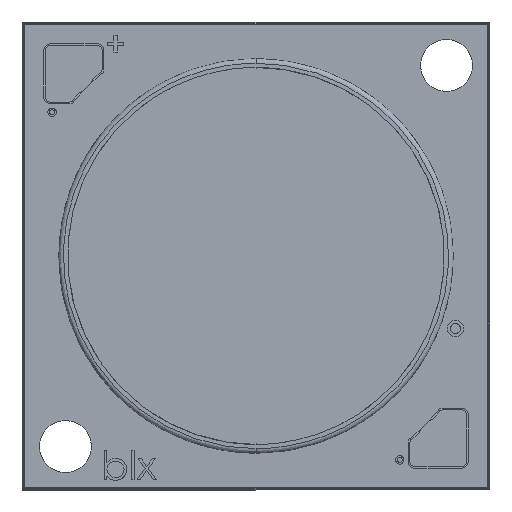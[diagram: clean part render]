
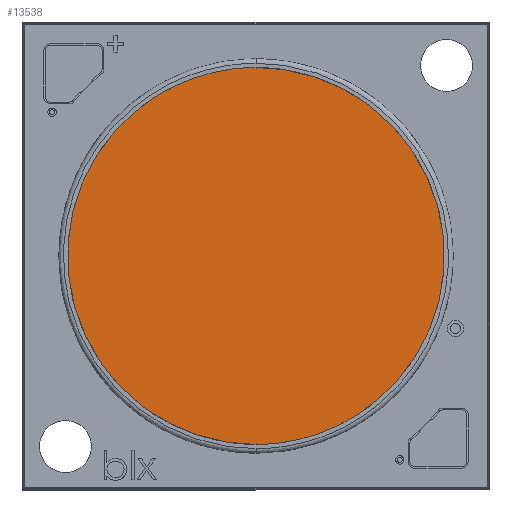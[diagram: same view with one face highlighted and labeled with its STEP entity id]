
A CAD part, top view. The second image highlights one B-rep face of the part: STEP entity #13538.
In plain terms, the highlighted planar face has unit normal (0, 0, 1).
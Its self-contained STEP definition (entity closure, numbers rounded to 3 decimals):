
#961 = EDGE_CURVE ( 'NONE', #15613, #22956, #9832, .T. ) ;
#4409 = ORIENTED_EDGE ( 'NONE', *, *, #11594, .F. ) ;
#7903 = AXIS2_PLACEMENT_3D ( 'NONE', #10796, #9530, #9477 ) ;
#9173 = FACE_OUTER_BOUND ( 'NONE', #19601, .T. ) ;
#9477 = DIRECTION ( 'NONE',  ( -1., 0., 0. ) ) ;
#9530 = DIRECTION ( 'NONE',  ( 0., 0., -1. ) ) ;
#9832 =( BOUNDED_CURVE ( )  B_SPLINE_CURVE ( 3, ( #21443, #24370, #24526, #21383 ),
 .UNSPECIFIED., .F., .T. ) 
 B_SPLINE_CURVE_WITH_KNOTS ( ( 4, 4 ),
 ( 0., 1. ),
 .UNSPECIFIED. ) 
 CURVE ( )  GEOMETRIC_REPRESENTATION_ITEM ( )  RATIONAL_B_SPLINE_CURVE ( ( 1., 0.333, 0.333, 1. ) ) 
 REPRESENTATION_ITEM ( '' )  );
#9906 = PLANE ( 'NONE',  #7903 ) ;
#10796 = CARTESIAN_POINT ( 'NONE',  ( -11.275, 0., 1.59 ) ) ;
#11594 = EDGE_CURVE ( 'NONE', #22956, #15613, #14100, .T. ) ;
#12453 = ORIENTED_EDGE ( 'NONE', *, *, #961, .F. ) ;
#12600 = CARTESIAN_POINT ( 'NONE',  ( 0., 11.275, 1.59 ) ) ;
#12625 = CARTESIAN_POINT ( 'NONE',  ( -22.55, 11.275, 1.59 ) ) ;
#12646 = CARTESIAN_POINT ( 'NONE',  ( -22.55, -11.275, 1.59 ) ) ;
#12691 = CARTESIAN_POINT ( 'NONE',  ( 0., -11.275, 1.59 ) ) ;
#12934 = CARTESIAN_POINT ( 'NONE',  ( 0., 11.275, 1.59 ) ) ;
#13538 = ADVANCED_FACE ( 'NONE', ( #9173 ), #9906, .F. ) ;
#14100 =( BOUNDED_CURVE ( )  B_SPLINE_CURVE ( 3, ( #12691, #12646, #12625, #12600 ),
 .UNSPECIFIED., .F., .T. ) 
 B_SPLINE_CURVE_WITH_KNOTS ( ( 4, 4 ),
 ( 0., 1. ),
 .UNSPECIFIED. ) 
 CURVE ( )  GEOMETRIC_REPRESENTATION_ITEM ( )  RATIONAL_B_SPLINE_CURVE ( ( 1., 0.333, 0.333, 1. ) ) 
 REPRESENTATION_ITEM ( '' )  );
#15613 = VERTEX_POINT ( 'NONE', #12934 ) ;
#19601 = EDGE_LOOP ( 'NONE', ( #4409, #12453 ) ) ;
#21383 = CARTESIAN_POINT ( 'NONE',  ( 0., -11.275, 1.59 ) ) ;
#21443 = CARTESIAN_POINT ( 'NONE',  ( 0., 11.275, 1.59 ) ) ;
#21932 = CARTESIAN_POINT ( 'NONE',  ( 0., -11.275, 1.59 ) ) ;
#22956 = VERTEX_POINT ( 'NONE', #21932 ) ;
#24370 = CARTESIAN_POINT ( 'NONE',  ( 22.55, 11.275, 1.59 ) ) ;
#24526 = CARTESIAN_POINT ( 'NONE',  ( 22.55, -11.275, 1.59 ) ) ;
